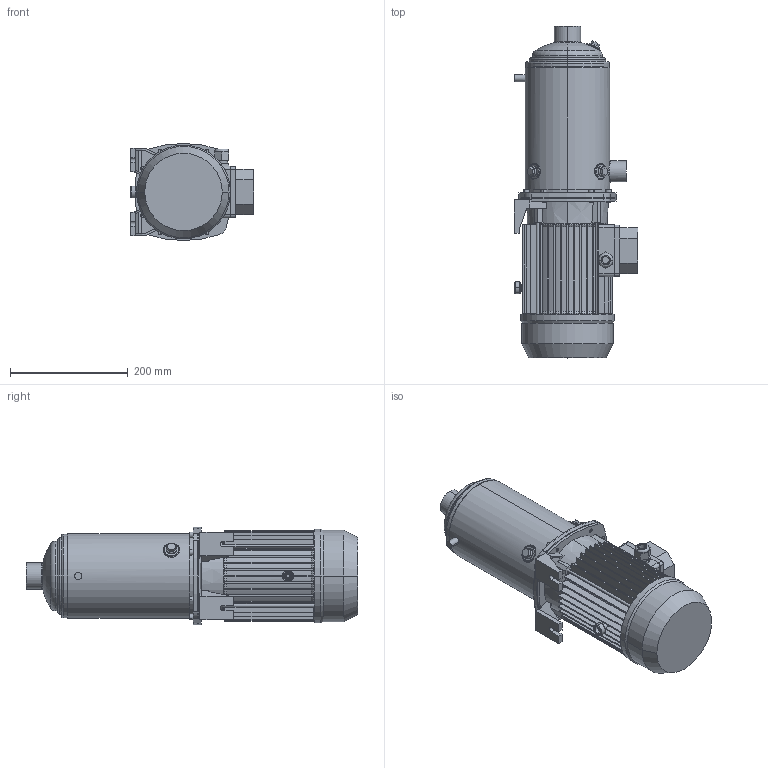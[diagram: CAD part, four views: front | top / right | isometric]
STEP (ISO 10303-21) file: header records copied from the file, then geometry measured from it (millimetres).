
FILE_DESCRIPTION((''),'2;1');
FILE_NAME('MATRIX_5-9T_2_2_IE3_ASM','2018-06-01T',('rosa'),('"Ebara Pumps Europe +39.444.706811"'),'PRO/ENGINEER BY PARAMETRIC TECHNOLOGY CORPORATION, 2012130','PRO/ENGINEER BY PARAMETRIC TECHNOLOGY CORPORATION, 2012130','');
FILE_SCHEMA(('AUTOMOTIVE_DESIGN { 1 0 10303 214 1 1 1 1 }'));
Length unit declared in the file: millimetre
Products named in the file (5): CORPO_POMPA_MATRIX_5-9; SUPPORTO_MATRIX_MEC_80; MEC_80X130_IE3; 72229; MATRIX_5-9T_2_2_IE3_ASM
Assembly tree (4 placements, depth 2):
  MATRIX_5-9T_2_2_IE3_ASM
    CORPO_POMPA_MATRIX_5-9
    SUPPORTO_MATRIX_MEC_80
    MEC_80X130_IE3
    72229
Bounding box: 209 x 563.8 x 165 mm (x, y, z)
Volume: 6929087.6 mm3; surface area: 622284.4 mm2
Topology: 4 solids, 4 shells, 721 faces, 1735 edges, 1071 vertices
Faces by surface type: plane 378, cylinder 188, cone 102, torus 37, bspline 14, sphere 2
Entity records: 28315 total; most frequent: CARTESIAN_POINT 5519, DIRECTION 3670, ORIENTED_EDGE 3470, EDGE_CURVE 1735, PRESENTATION_STYLE_ASSIGNMENT 1688, STYLED_ITEM 1688, CURVE_STYLE 1685, AXIS2_PLACEMENT_3D 1405
